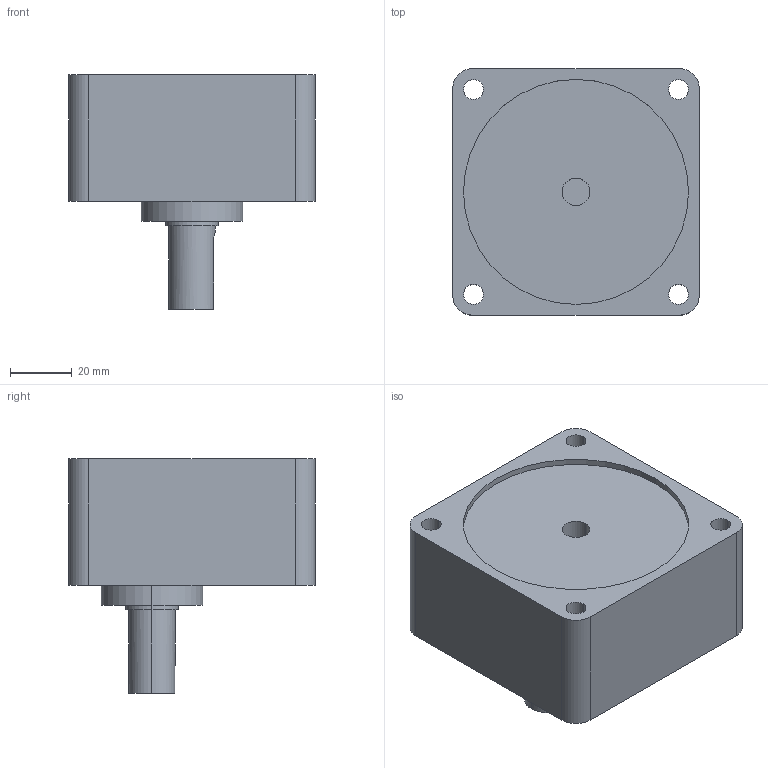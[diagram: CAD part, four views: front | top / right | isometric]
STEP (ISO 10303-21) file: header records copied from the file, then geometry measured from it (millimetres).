
FILE_DESCRIPTION (( 'STEP AP203' ), '1' );
FILE_NAME ('A1891A.step', '2024-04-24T09:14:05', ( '' ), ( '' ), 'SwSTEP 2.0', 'SolidWorks 2023', '' );
FILE_SCHEMA (( 'CONFIG_CONTROL_DESIGN' ));
Length unit declared in the file: millimetre
Products named in the file (1): A1891A
Bounding box: 80 x 80 x 76 mm (x, y, z)
Volume: 253549.6 mm3; surface area: 32075.7 mm2
Topology: 1 solids, 1 shells, 49 faces, 116 edges, 75 vertices
Faces by surface type: cylinder 29, plane 16, cone 4
Entity records: 1542 total; most frequent: DIRECTION 271, CARTESIAN_POINT 269, ORIENTED_EDGE 228, EDGE_CURVE 114, AXIS2_PLACEMENT_3D 109, VERTEX_POINT 75, EDGE_LOOP 65, CIRCLE 59
